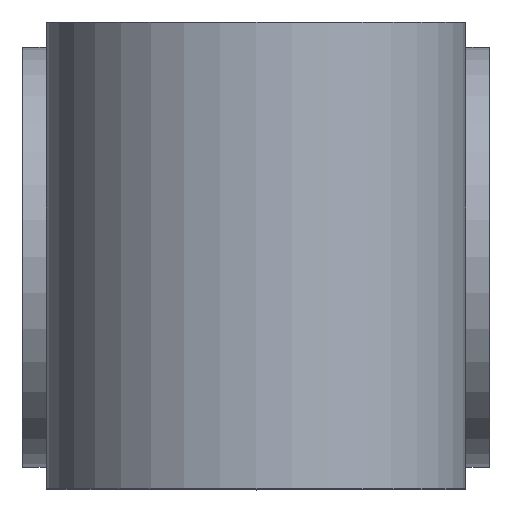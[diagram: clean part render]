
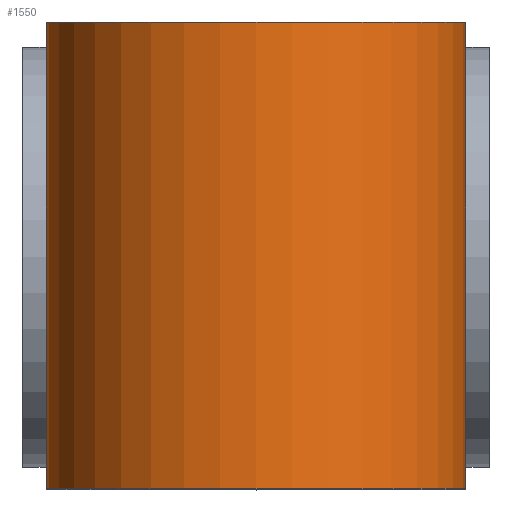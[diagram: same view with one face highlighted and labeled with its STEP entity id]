
A CAD part, top view. The second image highlights one B-rep face of the part: STEP entity #1550.
In plain terms, the highlighted cylindrical face has radius 3.6 mm (diameter 7.2 mm), a full revolution.
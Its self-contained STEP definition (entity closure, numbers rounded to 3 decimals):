
#115=LINE('',#2482,#229);
#117=LINE('',#2487,#231);
#118=LINE('',#2502,#232);
#119=LINE('',#2503,#233);
#120=LINE('',#2507,#234);
#121=LINE('',#2510,#235);
#229=VECTOR('',#1959,1000.);
#231=VECTOR('',#1965,1000.);
#232=VECTOR('',#1982,1000.);
#233=VECTOR('',#1983,1000.);
#234=VECTOR('',#1986,1000.);
#235=VECTOR('',#1989,1000.);
#412=ORIENTED_EDGE('',*,*,#848,.T.);
#413=ORIENTED_EDGE('',*,*,#849,.T.);
#414=ORIENTED_EDGE('',*,*,#821,.T.);
#415=ORIENTED_EDGE('',*,*,#843,.T.);
#416=ORIENTED_EDGE('',*,*,#829,.F.);
#417=ORIENTED_EDGE('',*,*,#850,.T.);
#418=ORIENTED_EDGE('',*,*,#851,.F.);
#419=ORIENTED_EDGE('',*,*,#852,.T.);
#420=ORIENTED_EDGE('',*,*,#853,.F.);
#421=ORIENTED_EDGE('',*,*,#840,.F.);
#422=ORIENTED_EDGE('',*,*,#819,.T.);
#423=ORIENTED_EDGE('',*,*,#854,.T.);
#424=ORIENTED_EDGE('',*,*,#845,.F.);
#425=ORIENTED_EDGE('',*,*,#847,.T.);
#819=EDGE_CURVE('',#1040,#1039,#1176,.T.);
#821=EDGE_CURVE('',#1041,#1042,#1177,.T.);
#829=EDGE_CURVE('',#1048,#1049,#1182,.T.);
#840=EDGE_CURVE('',#1040,#1055,#115,.T.);
#843=EDGE_CURVE('',#1042,#1049,#117,.T.);
#845=EDGE_CURVE('',#1057,#1057,#1190,.T.);
#847=EDGE_CURVE('',#1059,#1059,#1192,.T.);
#848=EDGE_CURVE('',#1060,#1061,#1193,.T.);
#849=EDGE_CURVE('',#1061,#1041,#118,.T.);
#850=EDGE_CURVE('',#1048,#1062,#119,.T.);
#851=EDGE_CURVE('',#1063,#1062,#1194,.T.);
#852=EDGE_CURVE('',#1063,#1064,#120,.F.);
#853=EDGE_CURVE('',#1055,#1064,#1195,.T.);
#854=EDGE_CURVE('',#1039,#1060,#121,.F.);
#1039=VERTEX_POINT('',#2440);
#1040=VERTEX_POINT('',#2442);
#1041=VERTEX_POINT('',#2446);
#1042=VERTEX_POINT('',#2447);
#1048=VERTEX_POINT('',#2461);
#1049=VERTEX_POINT('',#2463);
#1055=VERTEX_POINT('',#2483);
#1057=VERTEX_POINT('',#2492);
#1059=VERTEX_POINT('',#2497);
#1060=VERTEX_POINT('',#2500);
#1061=VERTEX_POINT('',#2501);
#1062=VERTEX_POINT('',#2504);
#1063=VERTEX_POINT('',#2506);
#1064=VERTEX_POINT('',#2508);
#1176=CIRCLE('',#1668,3.6);
#1177=CIRCLE('',#1670,3.6);
#1182=CIRCLE('',#1676,3.6);
#1190=CIRCLE('',#1689,3.6);
#1192=CIRCLE('',#1692,3.6);
#1193=CIRCLE('',#1694,3.6);
#1194=CIRCLE('',#1695,3.6);
#1195=CIRCLE('',#1696,3.6);
#1277=EDGE_LOOP('',(#412,#413,#414,#415,#416,#417,#418,#419,#420,#421,#422,
#423));
#1278=EDGE_LOOP('',(#424));
#1279=EDGE_LOOP('',(#425));
#1394=FACE_BOUND('',#1277,.T.);
#1395=FACE_BOUND('',#1278,.T.);
#1396=FACE_BOUND('',#1279,.T.);
#1489=CYLINDRICAL_SURFACE('',#1693,3.6);
#1550=ADVANCED_FACE('',(#1394,#1395,#1396),#1489,.T.);
#1668=AXIS2_PLACEMENT_3D('',#2441,#1916,#1917);
#1670=AXIS2_PLACEMENT_3D('',#2445,#1921,#1922);
#1676=AXIS2_PLACEMENT_3D('',#2462,#1936,#1937);
#1689=AXIS2_PLACEMENT_3D('',#2491,#1970,#1971);
#1692=AXIS2_PLACEMENT_3D('',#2496,#1976,#1977);
#1693=AXIS2_PLACEMENT_3D('',#2498,#1978,#1979);
#1694=AXIS2_PLACEMENT_3D('',#2499,#1980,#1981);
#1695=AXIS2_PLACEMENT_3D('',#2505,#1984,#1985);
#1696=AXIS2_PLACEMENT_3D('',#2509,#1987,#1988);
#1916=DIRECTION('',(0.,-1.,0.));
#1917=DIRECTION('',(0.,0.,-1.));
#1921=DIRECTION('',(0.,-1.,0.));
#1922=DIRECTION('',(0.,0.,-1.));
#1936=DIRECTION('',(0.,-1.,0.));
#1937=DIRECTION('',(0.,0.,-1.));
#1959=DIRECTION('',(0.,1.,0.));
#1965=DIRECTION('',(0.,1.,0.));
#1970=DIRECTION('',(0.,1.,0.));
#1971=DIRECTION('',(1.,0.,0.));
#1976=DIRECTION('',(0.,1.,0.));
#1977=DIRECTION('',(1.,0.,0.));
#1978=DIRECTION('',(0.,-1.,0.));
#1979=DIRECTION('',(0.,0.,-1.));
#1980=DIRECTION('',(0.,-1.,0.));
#1981=DIRECTION('',(0.,0.,1.));
#1982=DIRECTION('',(0.,-1.,0.));
#1983=DIRECTION('',(0.,-1.,0.));
#1984=DIRECTION('',(0.,-1.,0.));
#1985=DIRECTION('',(0.,0.,1.));
#1986=DIRECTION('',(0.,-1.,0.));
#1987=DIRECTION('',(0.,-1.,0.));
#1988=DIRECTION('',(0.,0.,-1.));
#1989=DIRECTION('',(0.,-1.,0.));
#2440=CARTESIAN_POINT('',(-2.02,0.4,5.02));
#2441=CARTESIAN_POINT('',(0.,0.4,8.));
#2442=CARTESIAN_POINT('',(-3.6,0.4,8.));
#2445=CARTESIAN_POINT('',(0.,0.4,8.));
#2446=CARTESIAN_POINT('',(2.022,0.4,5.022));
#2447=CARTESIAN_POINT('',(3.6,0.4,8.));
#2461=CARTESIAN_POINT('',(2.02,7.6,5.02));
#2462=CARTESIAN_POINT('',(0.,7.6,8.));
#2463=CARTESIAN_POINT('',(3.6,7.6,8.));
#2482=CARTESIAN_POINT('',(-3.6,0.4,8.));
#2483=CARTESIAN_POINT('',(-3.6,7.6,8.));
#2487=CARTESIAN_POINT('',(3.6,0.4,8.));
#2491=CARTESIAN_POINT('',(0.,8.,8.));
#2492=CARTESIAN_POINT('',(3.6,8.,8.));
#2496=CARTESIAN_POINT('',(0.,0.,8.));
#2497=CARTESIAN_POINT('',(3.6,0.,8.));
#2498=CARTESIAN_POINT('',(0.,8.,8.));
#2499=CARTESIAN_POINT('',(0.,3.1,8.));
#2500=CARTESIAN_POINT('',(-2.02,3.1,5.02));
#2501=CARTESIAN_POINT('',(2.022,3.1,5.022));
#2502=CARTESIAN_POINT('',(2.022,8.,5.022));
#2503=CARTESIAN_POINT('',(2.02,8.,5.02));
#2504=CARTESIAN_POINT('',(2.02,4.9,5.02));
#2505=CARTESIAN_POINT('',(0.,4.9,8.));
#2506=CARTESIAN_POINT('',(-2.02,4.9,5.02));
#2507=CARTESIAN_POINT('',(-2.02,8.,5.02));
#2508=CARTESIAN_POINT('',(-2.02,7.6,5.02));
#2509=CARTESIAN_POINT('',(0.,7.6,8.));
#2510=CARTESIAN_POINT('',(-2.02,8.,5.02));
